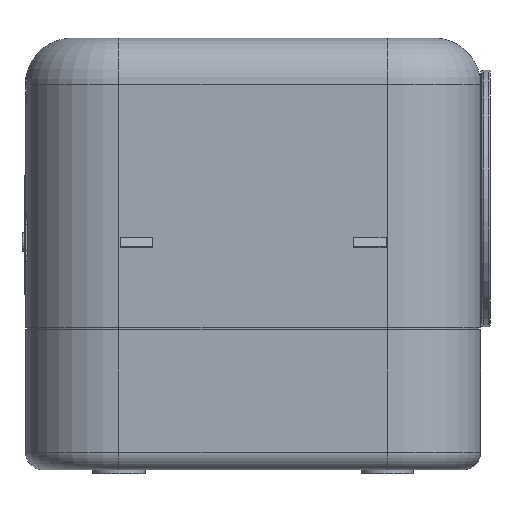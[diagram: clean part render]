
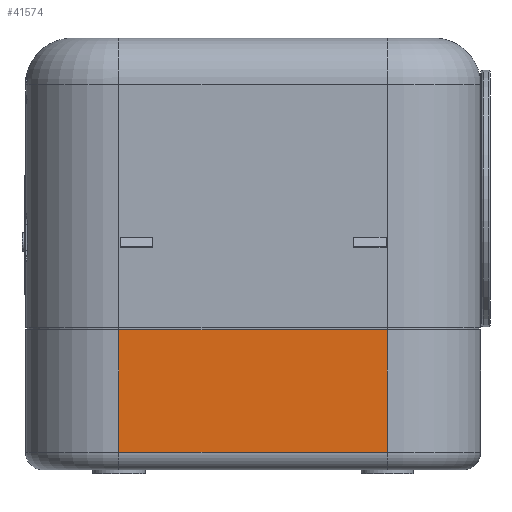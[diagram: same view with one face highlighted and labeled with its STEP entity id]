
A CAD part, left-side view. The second image highlights one B-rep face of the part: STEP entity #41574.
In plain terms, the highlighted planar face has unit normal (-1, 0, 0).
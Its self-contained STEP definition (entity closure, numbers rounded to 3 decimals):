
#33994 = PLANE('',#33995);
#33995 = AXIS2_PLACEMENT_3D('',#33996,#33997,#33998);
#33996 = CARTESIAN_POINT('',(-100.,-100.,24.));
#33997 = DIRECTION('',(0.,0.,1.));
#33998 = DIRECTION('',(1.,0.,0.));
#36473 = VERTEX_POINT('',#36474);
#36474 = CARTESIAN_POINT('',(-45.,23.,24.));
#36489 = CYLINDRICAL_SURFACE('',#36490,16.);
#36490 = AXIS2_PLACEMENT_3D('',#36491,#36492,#36493);
#36491 = CARTESIAN_POINT('',(-29.,23.,0.));
#36492 = DIRECTION('',(0.,0.,1.));
#36493 = DIRECTION('',(-1.,-0.,0.));
#36501 = EDGE_CURVE('',#36473,#36502,#36504,.T.);
#36502 = VERTEX_POINT('',#36503);
#36503 = CARTESIAN_POINT('',(-45.,-23.,24.));
#36504 = SURFACE_CURVE('',#36505,(#36509,#36516),.PCURVE_S1.);
#36505 = LINE('',#36506,#36507);
#36506 = CARTESIAN_POINT('',(-45.,-69.5,24.));
#36507 = VECTOR('',#36508,1.);
#36508 = DIRECTION('',(0.,-1.,0.));
#36509 = PCURVE('',#33994,#36510);
#36510 = DEFINITIONAL_REPRESENTATION('',(#36511),#36515);
#36511 = LINE('',#36512,#36513);
#36512 = CARTESIAN_POINT('',(55.,30.5));
#36513 = VECTOR('',#36514,1.);
#36514 = DIRECTION('',(0.,-1.));
#36515 = ( GEOMETRIC_REPRESENTATION_CONTEXT(2) 
PARAMETRIC_REPRESENTATION_CONTEXT() REPRESENTATION_CONTEXT('2D SPACE',''
  ) );
#36516 = PCURVE('',#36517,#36522);
#36517 = PLANE('',#36518);
#36518 = AXIS2_PLACEMENT_3D('',#36519,#36520,#36521);
#36519 = CARTESIAN_POINT('',(-45.,-39.,0.));
#36520 = DIRECTION('',(1.,0.,0.));
#36521 = DIRECTION('',(0.,0.,1.));
#36522 = DEFINITIONAL_REPRESENTATION('',(#36523),#36526);
#36523 = B_SPLINE_CURVE_WITH_KNOTS('',1,(#36524,#36525),.UNSPECIFIED.,
  .F.,.F.,(2,2),(-92.5,-46.5),.PIECEWISE_BEZIER_KNOTS.);
#36524 = CARTESIAN_POINT('',(24.,-62.));
#36525 = CARTESIAN_POINT('',(24.,-16.));
#36526 = ( GEOMETRIC_REPRESENTATION_CONTEXT(2) 
PARAMETRIC_REPRESENTATION_CONTEXT() REPRESENTATION_CONTEXT('2D SPACE',''
  ) );
#36545 = CYLINDRICAL_SURFACE('',#36546,16.);
#36546 = AXIS2_PLACEMENT_3D('',#36547,#36548,#36549);
#36547 = CARTESIAN_POINT('',(-29.,-23.,0.));
#36548 = DIRECTION('',(0.,0.,1.));
#36549 = DIRECTION('',(-1.,-0.,0.));
#41523 = EDGE_CURVE('',#41524,#36473,#41526,.T.);
#41524 = VERTEX_POINT('',#41525);
#41525 = CARTESIAN_POINT('',(-45.,23.,3.));
#41526 = SURFACE_CURVE('',#41527,(#41531,#41538),.PCURVE_S1.);
#41527 = LINE('',#41528,#41529);
#41528 = CARTESIAN_POINT('',(-45.,23.,0.));
#41529 = VECTOR('',#41530,1.);
#41530 = DIRECTION('',(0.,0.,1.));
#41531 = PCURVE('',#36489,#41532);
#41532 = DEFINITIONAL_REPRESENTATION('',(#41533),#41537);
#41533 = LINE('',#41534,#41535);
#41534 = CARTESIAN_POINT('',(-0.,0.));
#41535 = VECTOR('',#41536,1.);
#41536 = DIRECTION('',(-0.,1.));
#41537 = ( GEOMETRIC_REPRESENTATION_CONTEXT(2) 
PARAMETRIC_REPRESENTATION_CONTEXT() REPRESENTATION_CONTEXT('2D SPACE',''
  ) );
#41538 = PCURVE('',#36517,#41539);
#41539 = DEFINITIONAL_REPRESENTATION('',(#41540),#41544);
#41540 = LINE('',#41541,#41542);
#41541 = CARTESIAN_POINT('',(0.,-62.));
#41542 = VECTOR('',#41543,1.);
#41543 = DIRECTION('',(1.,0.));
#41544 = ( GEOMETRIC_REPRESENTATION_CONTEXT(2) 
PARAMETRIC_REPRESENTATION_CONTEXT() REPRESENTATION_CONTEXT('2D SPACE',''
  ) );
#41574 = ADVANCED_FACE('',(#41575),#36517,.F.);
#41575 = FACE_BOUND('',#41576,.F.);
#41576 = EDGE_LOOP('',(#41577,#41600,#41626,#41627));
#41577 = ORIENTED_EDGE('',*,*,#41578,.F.);
#41578 = EDGE_CURVE('',#41579,#36502,#41581,.T.);
#41579 = VERTEX_POINT('',#41580);
#41580 = CARTESIAN_POINT('',(-45.,-23.,3.));
#41581 = SURFACE_CURVE('',#41582,(#41586,#41593),.PCURVE_S1.);
#41582 = LINE('',#41583,#41584);
#41583 = CARTESIAN_POINT('',(-45.,-23.,0.));
#41584 = VECTOR('',#41585,1.);
#41585 = DIRECTION('',(0.,0.,1.));
#41586 = PCURVE('',#36517,#41587);
#41587 = DEFINITIONAL_REPRESENTATION('',(#41588),#41592);
#41588 = LINE('',#41589,#41590);
#41589 = CARTESIAN_POINT('',(0.,-16.));
#41590 = VECTOR('',#41591,1.);
#41591 = DIRECTION('',(1.,0.));
#41592 = ( GEOMETRIC_REPRESENTATION_CONTEXT(2) 
PARAMETRIC_REPRESENTATION_CONTEXT() REPRESENTATION_CONTEXT('2D SPACE',''
  ) );
#41593 = PCURVE('',#36545,#41594);
#41594 = DEFINITIONAL_REPRESENTATION('',(#41595),#41599);
#41595 = LINE('',#41596,#41597);
#41596 = CARTESIAN_POINT('',(0.,0.));
#41597 = VECTOR('',#41598,1.);
#41598 = DIRECTION('',(0.,1.));
#41599 = ( GEOMETRIC_REPRESENTATION_CONTEXT(2) 
PARAMETRIC_REPRESENTATION_CONTEXT() REPRESENTATION_CONTEXT('2D SPACE',''
  ) );
#41600 = ORIENTED_EDGE('',*,*,#41601,.T.);
#41601 = EDGE_CURVE('',#41579,#41524,#41602,.T.);
#41602 = SURFACE_CURVE('',#41603,(#41607,#41614),.PCURVE_S1.);
#41603 = LINE('',#41604,#41605);
#41604 = CARTESIAN_POINT('',(-45.,-23.,3.));
#41605 = VECTOR('',#41606,1.);
#41606 = DIRECTION('',(0.,1.,0.));
#41607 = PCURVE('',#36517,#41608);
#41608 = DEFINITIONAL_REPRESENTATION('',(#41609),#41613);
#41609 = LINE('',#41610,#41611);
#41610 = CARTESIAN_POINT('',(3.,-16.));
#41611 = VECTOR('',#41612,1.);
#41612 = DIRECTION('',(0.,-1.));
#41613 = ( GEOMETRIC_REPRESENTATION_CONTEXT(2) 
PARAMETRIC_REPRESENTATION_CONTEXT() REPRESENTATION_CONTEXT('2D SPACE',''
  ) );
#41614 = PCURVE('',#41615,#41620);
#41615 = CYLINDRICAL_SURFACE('',#41616,3.);
#41616 = AXIS2_PLACEMENT_3D('',#41617,#41618,#41619);
#41617 = CARTESIAN_POINT('',(-42.,-23.,3.));
#41618 = DIRECTION('',(0.,1.,0.));
#41619 = DIRECTION('',(-1.,0.,0.));
#41620 = DEFINITIONAL_REPRESENTATION('',(#41621),#41625);
#41621 = LINE('',#41622,#41623);
#41622 = CARTESIAN_POINT('',(-0.,0.));
#41623 = VECTOR('',#41624,1.);
#41624 = DIRECTION('',(-0.,1.));
#41625 = ( GEOMETRIC_REPRESENTATION_CONTEXT(2) 
PARAMETRIC_REPRESENTATION_CONTEXT() REPRESENTATION_CONTEXT('2D SPACE',''
  ) );
#41626 = ORIENTED_EDGE('',*,*,#41523,.T.);
#41627 = ORIENTED_EDGE('',*,*,#36501,.T.);
